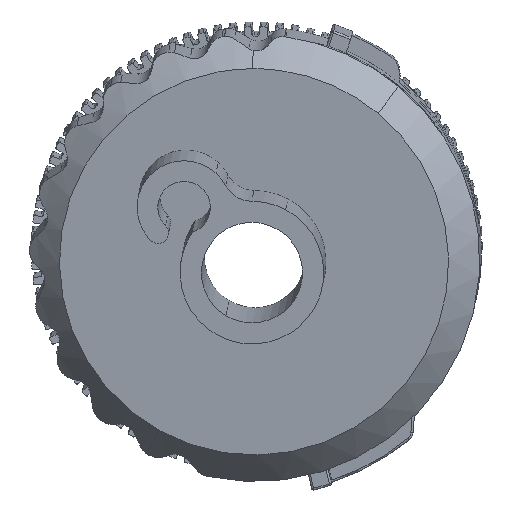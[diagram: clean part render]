
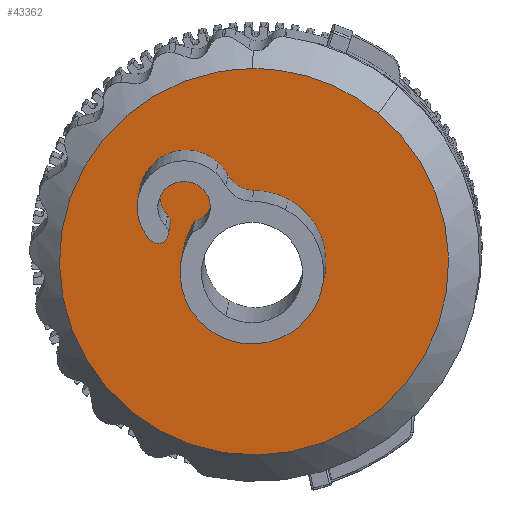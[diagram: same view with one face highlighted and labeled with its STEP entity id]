
A CAD part, left-side view. The second image highlights one B-rep face of the part: STEP entity #43362.
In plain terms, the highlighted planar face has unit normal (-0.992, 0.023, -0.123).
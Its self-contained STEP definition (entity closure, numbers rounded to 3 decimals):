
#1625=AXIS2_PLACEMENT_3D('Circle Axis2P3D',#1623,#1624,$) ;
#1770=AXIS2_PLACEMENT_3D('Circle Axis2P3D',#1768,#1769,$) ;
#14069=AXIS2_PLACEMENT_3D('Circle Axis2P3D',#14067,#14068,$) ;
#14093=AXIS2_PLACEMENT_3D('Circle Axis2P3D',#14091,#14092,$) ;
#14140=AXIS2_PLACEMENT_3D('Circle Axis2P3D',#14138,#14139,$) ;
#14178=AXIS2_PLACEMENT_3D('Circle Axis2P3D',#14176,#14177,$) ;
#14216=AXIS2_PLACEMENT_3D('Circle Axis2P3D',#14214,#14215,$) ;
#14240=AXIS2_PLACEMENT_3D('Circle Axis2P3D',#14238,#14239,$) ;
#14282=AXIS2_PLACEMENT_3D('Circle Axis2P3D',#14280,#14281,$) ;
#24292=AXIS2_PLACEMENT_3D('Circle Axis2P3D',#24290,#24291,$) ;
#24325=AXIS2_PLACEMENT_3D('Circle Axis2P3D',#24323,#24324,$) ;
#24349=AXIS2_PLACEMENT_3D('Circle Axis2P3D',#24347,#24348,$) ;
#43341=AXIS2_PLACEMENT_3D('Plane Axis2P3D',#43338,#43339,#43340) ;
#280=CARTESIAN_POINT('Control Point',(1114.577,-921.257,243.149)) ;
#281=CARTESIAN_POINT('Control Point',(1114.747,-925.058,241.048)) ;
#282=CARTESIAN_POINT('Control Point',(1114.775,-929.441,239.989)) ;
#283=CARTESIAN_POINT('Control Point',(1114.642,-934.012,240.192)) ;
#284=CARTESIAN_POINT('Control Point',(1114.084,-942.54,243.075)) ;
#285=CARTESIAN_POINT('Control Point',(1113.101,-948.347,249.906)) ;
#286=CARTESIAN_POINT('Control Point',(1112.544,-950.198,254.055)) ;
#287=CARTESIAN_POINT('Control Point',(1111.603,-951.197,261.461)) ;
#288=CARTESIAN_POINT('Control Point',(1110.797,-948.872,268.422)) ;
#289=CARTESIAN_POINT('Control Point',(1110.511,-947.422,271.01)) ;
#290=CARTESIAN_POINT('Control Point',(1110.275,-945.525,273.272)) ;
#291=CARTESIAN_POINT('Control Point',(1110.099,-943.283,275.123)) ;
#292=CARTESIAN_POINT('Vertex',(1114.577,-921.257,243.149)) ;
#294=CARTESIAN_POINT('Vertex',(1110.099,-943.283,275.123)) ;
#1359=CARTESIAN_POINT('Control Point',(1114.577,-921.257,243.149)) ;
#1360=CARTESIAN_POINT('Control Point',(1114.406,-917.456,245.25)) ;
#1361=CARTESIAN_POINT('Control Point',(1114.093,-914.238,248.394)) ;
#1362=CARTESIAN_POINT('Control Point',(1113.655,-911.999,252.362)) ;
#1363=CARTESIAN_POINT('Control Point',(1112.623,-909.96,261.087)) ;
#1364=CARTESIAN_POINT('Control Point',(1111.504,-912.728,269.597)) ;
#1365=CARTESIAN_POINT('Control Point',(1110.979,-915.295,273.351)) ;
#1366=CARTESIAN_POINT('Control Point',(1110.382,-920.069,277.265)) ;
#1367=CARTESIAN_POINT('Control Point',(1110.018,-925.776,279.116)) ;
#1368=CARTESIAN_POINT('Control Point',(1109.938,-927.381,279.458)) ;
#1369=CARTESIAN_POINT('Control Point',(1109.878,-929.011,279.631)) ;
#1370=CARTESIAN_POINT('Control Point',(1109.839,-930.642,279.637)) ;
#1371=CARTESIAN_POINT('Vertex',(1109.839,-930.642,279.637)) ;
#1623=CARTESIAN_POINT('Axis2P3D Location',(1112.247,-930.765,260.159)) ;
#1627=CARTESIAN_POINT('Vertex',(1109.796,-933.477,279.442)) ;
#1768=CARTESIAN_POINT('Axis2P3D Location',(1112.247,-930.765,260.159)) ;
#14050=CARTESIAN_POINT('Vertex',(1113.112,-927.361,253.817)) ;
#14064=CARTESIAN_POINT('Vertex',(1111.977,-924.367,263.558)) ;
#14067=CARTESIAN_POINT('Axis2P3D Location',(1112.247,-930.765,260.159)) ;
#14091=CARTESIAN_POINT('Axis2P3D Location',(1112.247,-930.765,260.159)) ;
#14095=CARTESIAN_POINT('Vertex',(1111.381,-934.17,266.501)) ;
#14130=CARTESIAN_POINT('Vertex',(1111.356,-930.757,267.354)) ;
#14138=CARTESIAN_POINT('Axis2P3D Location',(1112.247,-930.765,260.159)) ;
#14168=CARTESIAN_POINT('Vertex',(1111.223,-928.11,268.933)) ;
#14176=CARTESIAN_POINT('Axis2P3D Location',(1110.988,-930.754,270.332)) ;
#14204=CARTESIAN_POINT('Vertex',(1111.092,-927.141,270.178)) ;
#14214=CARTESIAN_POINT('Axis2P3D Location',(1111.596,-923.924,266.719)) ;
#14238=CARTESIAN_POINT('Axis2P3D Location',(1111.596,-923.924,266.719)) ;
#14242=CARTESIAN_POINT('Vertex',(1112.085,-920.543,263.419)) ;
#14277=CARTESIAN_POINT('Vertex',(1111.885,-924.774,264.225)) ;
#14280=CARTESIAN_POINT('Axis2P3D Location',(1112.247,-930.765,260.159)) ;
#24260=CARTESIAN_POINT('Vertex',(1111.327,-925.838,268.532)) ;
#24264=CARTESIAN_POINT('Control Point',(1111.885,-924.774,264.225)) ;
#24265=CARTESIAN_POINT('Control Point',(1111.82,-925.782,264.561)) ;
#24266=CARTESIAN_POINT('Control Point',(1111.696,-926.623,265.398)) ;
#24267=CARTESIAN_POINT('Control Point',(1111.536,-926.929,266.636)) ;
#24268=CARTESIAN_POINT('Control Point',(1111.404,-926.574,267.767)) ;
#24269=CARTESIAN_POINT('Control Point',(1111.327,-925.838,268.532)) ;
#24290=CARTESIAN_POINT('Axis2P3D Location',(1111.596,-923.924,266.719)) ;
#24294=CARTESIAN_POINT('Vertex',(1111.866,-922.011,264.905)) ;
#24320=CARTESIAN_POINT('Vertex',(1111.869,-922.038,264.878)) ;
#24323=CARTESIAN_POINT('Axis2P3D Location',(1111.596,-923.924,266.719)) ;
#24347=CARTESIAN_POINT('Axis2P3D Location',(1111.977,-921.29,264.148)) ;
#43338=CARTESIAN_POINT('Axis2P3D Location',(1112.247,-930.765,260.159)) ;
#1624=DIRECTION('Axis2P3D Direction',(-0.992,0.023,-0.123)) ;
#1769=DIRECTION('Axis2P3D Direction',(-0.992,0.023,-0.123)) ;
#14068=DIRECTION('Axis2P3D Direction',(-0.992,0.023,-0.123)) ;
#14092=DIRECTION('Axis2P3D Direction',(-0.992,0.023,-0.123)) ;
#14139=DIRECTION('Axis2P3D Direction',(-0.992,0.023,-0.123)) ;
#14177=DIRECTION('Axis2P3D Direction',(-0.992,0.023,-0.123)) ;
#14215=DIRECTION('Axis2P3D Direction',(-0.992,0.023,-0.123)) ;
#14239=DIRECTION('Axis2P3D Direction',(-0.992,0.023,-0.123)) ;
#14281=DIRECTION('Axis2P3D Direction',(-0.992,0.023,-0.123)) ;
#24291=DIRECTION('Axis2P3D Direction',(-0.992,0.023,-0.123)) ;
#24324=DIRECTION('Axis2P3D Direction',(-0.992,0.023,-0.123)) ;
#24348=DIRECTION('Axis2P3D Direction',(-0.992,0.023,-0.123)) ;
#43339=DIRECTION('Axis2P3D Direction',(0.992,-0.023,0.123)) ;
#43340=DIRECTION('Axis2P3D XDirection',(-0.119,-0.484,0.867)) ;
#43344=ORIENTED_EDGE('',*,*,#1629,.T.) ;
#43345=ORIENTED_EDGE('',*,*,#1772,.F.) ;
#43346=ORIENTED_EDGE('',*,*,#1373,.F.) ;
#43347=ORIENTED_EDGE('',*,*,#296,.T.) ;
#43350=ORIENTED_EDGE('',*,*,#14284,.T.) ;
#43351=ORIENTED_EDGE('',*,*,#24270,.F.) ;
#43352=ORIENTED_EDGE('',*,*,#24296,.F.) ;
#43353=ORIENTED_EDGE('',*,*,#24327,.F.) ;
#43354=ORIENTED_EDGE('',*,*,#24351,.F.) ;
#43355=ORIENTED_EDGE('',*,*,#14244,.T.) ;
#43356=ORIENTED_EDGE('',*,*,#14218,.T.) ;
#43357=ORIENTED_EDGE('',*,*,#14180,.T.) ;
#43358=ORIENTED_EDGE('',*,*,#14142,.T.) ;
#43359=ORIENTED_EDGE('',*,*,#14097,.T.) ;
#43360=ORIENTED_EDGE('',*,*,#14071,.T.) ;
#43361=FACE_BOUND('',#43349,.T.) ;
#43362=ADVANCED_FACE('20200526\X2\66F465B0\X0\',(#43348,#43361),#43342,.F.) ;
#279=B_SPLINE_CURVE_WITH_KNOTS('',5,(#280,#281,#282,#283,#284,#285,#286,#287,#288,#289,#290,#291),.UNSPECIFIED.,.F.,.U.,(6,3,3,6),(0.,112.836,225.673,301.295),.UNSPECIFIED.) ;
#1358=B_SPLINE_CURVE_WITH_KNOTS('',5,(#1359,#1360,#1361,#1362,#1363,#1364,#1365,#1366,#1367,#1368,#1369,#1370),.UNSPECIFIED.,.F.,.U.,(6,3,3,6),(0.,112.836,225.673,268.036),.UNSPECIFIED.) ;
#24263=B_SPLINE_CURVE_WITH_KNOTS('',5,(#24264,#24265,#24266,#24267,#24268,#24269),.UNSPECIFIED.,.F.,.U.,(6,6),(-2.661,2.661),.UNSPECIFIED.) ;
#1626=CIRCLE('generated circle',#1625,19.626) ;
#1771=CIRCLE('generated circle',#1770,19.626) ;
#14070=CIRCLE('generated circle',#14069,7.25) ;
#14094=CIRCLE('generated circle',#14093,7.25) ;
#14141=CIRCLE('generated circle',#14140,7.25) ;
#14179=CIRCLE('generated circle',#14178,3.) ;
#14217=CIRCLE('generated circle',#14216,4.75) ;
#14241=CIRCLE('generated circle',#14240,4.75) ;
#14283=CIRCLE('generated circle',#14282,7.25) ;
#24293=CIRCLE('generated circle',#24292,2.65) ;
#24326=CIRCLE('generated circle',#24325,2.65) ;
#24350=CIRCLE('generated circle',#24349,1.05) ;
#296=EDGE_CURVE('',#293,#295,#279,.T.) ;
#1373=EDGE_CURVE('',#293,#1372,#1358,.T.) ;
#1629=EDGE_CURVE('',#295,#1628,#1626,.T.) ;
#1772=EDGE_CURVE('',#1372,#1628,#1771,.F.) ;
#14071=EDGE_CURVE('',#14051,#14065,#14070,.F.) ;
#14097=EDGE_CURVE('',#14096,#14051,#14094,.F.) ;
#14142=EDGE_CURVE('',#14131,#14096,#14141,.F.) ;
#14180=EDGE_CURVE('',#14169,#14131,#14179,.T.) ;
#14218=EDGE_CURVE('',#14205,#14169,#14217,.F.) ;
#14244=EDGE_CURVE('',#14243,#14205,#14241,.F.) ;
#14284=EDGE_CURVE('',#14065,#14278,#14283,.F.) ;
#24270=EDGE_CURVE('',#24261,#14278,#24263,.F.) ;
#24296=EDGE_CURVE('',#24295,#24261,#24293,.F.) ;
#24327=EDGE_CURVE('',#24321,#24295,#24326,.F.) ;
#24351=EDGE_CURVE('',#14243,#24321,#24350,.T.) ;
#43343=EDGE_LOOP('',(#43344,#43345,#43346,#43347)) ;
#43349=EDGE_LOOP('',(#43350,#43351,#43352,#43353,#43354,#43355,#43356,#43357,#43358,#43359,#43360)) ;
#43348=FACE_OUTER_BOUND('',#43343,.T.) ;
#43342=PLANE('Plane',#43341) ;
#293=VERTEX_POINT('',#292) ;
#295=VERTEX_POINT('',#294) ;
#1372=VERTEX_POINT('',#1371) ;
#1628=VERTEX_POINT('',#1627) ;
#14051=VERTEX_POINT('',#14050) ;
#14065=VERTEX_POINT('',#14064) ;
#14096=VERTEX_POINT('',#14095) ;
#14131=VERTEX_POINT('',#14130) ;
#14169=VERTEX_POINT('',#14168) ;
#14205=VERTEX_POINT('',#14204) ;
#14243=VERTEX_POINT('',#14242) ;
#14278=VERTEX_POINT('',#14277) ;
#24261=VERTEX_POINT('',#24260) ;
#24295=VERTEX_POINT('',#24294) ;
#24321=VERTEX_POINT('',#24320) ;
